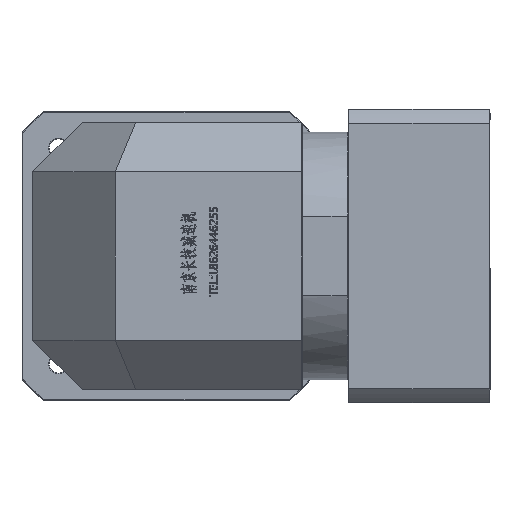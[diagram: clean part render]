
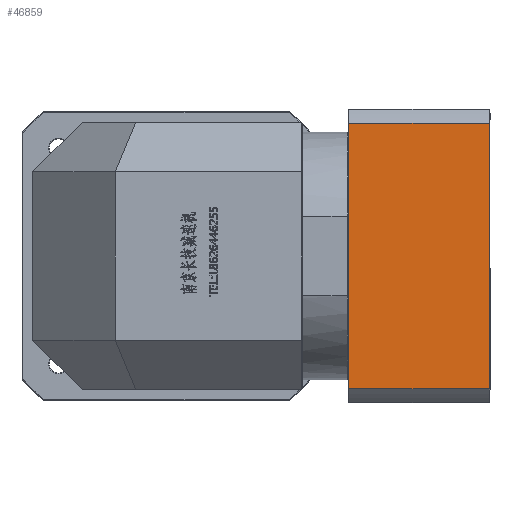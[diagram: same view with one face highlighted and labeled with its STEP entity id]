
A CAD part, left-side view. The second image highlights one B-rep face of the part: STEP entity #46859.
In plain terms, the highlighted planar face has unit normal (-1, 0, 0).
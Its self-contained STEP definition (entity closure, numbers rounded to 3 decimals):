
#1692 = VECTOR ( 'NONE', #49016, 1000. ) ;
#11822 = CARTESIAN_POINT ( 'NONE',  ( -84.254, 165.836, 194.713 ) ) ;
#13500 = EDGE_CURVE ( 'NONE', #28337, #120862, #60719, .T. ) ;
#17520 = ORIENTED_EDGE ( 'NONE', *, *, #124039, .F. ) ;
#22612 = DIRECTION ( 'NONE',  ( 0., 1., 0. ) ) ;
#23550 = VECTOR ( 'NONE', #104537, 1000. ) ;
#28337 = VERTEX_POINT ( 'NONE', #61549 ) ;
#29041 = ORIENTED_EDGE ( 'NONE', *, *, #46083, .F. ) ;
#37701 = LINE ( 'NONE', #110419, #100960 ) ;
#43123 = VECTOR ( 'NONE', #22612, 1000. ) ;
#46083 = EDGE_CURVE ( 'NONE', #141127, #136062, #106038, .T. ) ;
#46859 = ADVANCED_FACE ( 'NONE', ( #144391 ), #109187, .F. ) ;
#49016 = DIRECTION ( 'NONE',  ( 0., 0., 1. ) ) ;
#50642 = EDGE_CURVE ( 'NONE', #136062, #28337, #37701, .T. ) ;
#52693 = DIRECTION ( 'NONE',  ( 0., 1., 0. ) ) ;
#60328 = CARTESIAN_POINT ( 'NONE',  ( -84.254, 165.836, 355.698 ) ) ;
#60719 = LINE ( 'NONE', #11822, #43123 ) ;
#61549 = CARTESIAN_POINT ( 'NONE',  ( -84.254, -262.47, 194.713 ) ) ;
#68363 = LINE ( 'NONE', #71155, #1692 ) ;
#71155 = CARTESIAN_POINT ( 'NONE',  ( -84.254, -177.47, 186.206 ) ) ;
#74827 = ORIENTED_EDGE ( 'NONE', *, *, #50642, .F. ) ;
#80885 = CARTESIAN_POINT ( 'NONE',  ( -84.254, -262.47, 355.698 ) ) ;
#85454 = EDGE_LOOP ( 'NONE', ( #29041, #17520, #87407, #74827 ) ) ;
#87407 = ORIENTED_EDGE ( 'NONE', *, *, #13500, .F. ) ;
#92769 = AXIS2_PLACEMENT_3D ( 'NONE', #119975, #142110, #52693 ) ;
#100960 = VECTOR ( 'NONE', #110927, 1000. ) ;
#104537 = DIRECTION ( 'NONE',  ( 0., -1., 0. ) ) ;
#106038 = LINE ( 'NONE', #60328, #23550 ) ;
#109187 = PLANE ( 'NONE',  #92769 ) ;
#110419 = CARTESIAN_POINT ( 'NONE',  ( -84.254, -262.47, 194.206 ) ) ;
#110927 = DIRECTION ( 'NONE',  ( 0., 0., -1. ) ) ;
#116943 = CARTESIAN_POINT ( 'NONE',  ( -84.254, -177.47, 194.713 ) ) ;
#119975 = CARTESIAN_POINT ( 'NONE',  ( -84.254, -262.97, 186.206 ) ) ;
#120862 = VERTEX_POINT ( 'NONE', #116943 ) ;
#124039 = EDGE_CURVE ( 'NONE', #120862, #141127, #68363, .T. ) ;
#136062 = VERTEX_POINT ( 'NONE', #80885 ) ;
#140739 = CARTESIAN_POINT ( 'NONE',  ( -84.254, -177.47, 355.698 ) ) ;
#141127 = VERTEX_POINT ( 'NONE', #140739 ) ;
#142110 = DIRECTION ( 'NONE',  ( 1., 0., 0. ) ) ;
#144391 = FACE_OUTER_BOUND ( 'NONE', #85454, .T. ) ;
